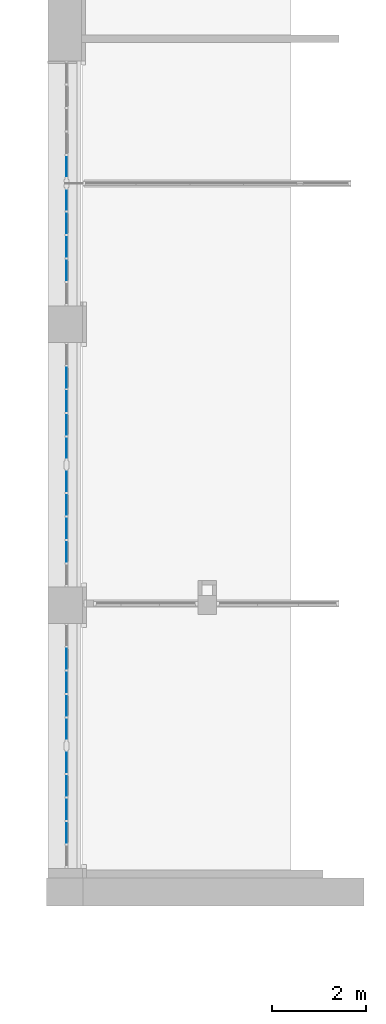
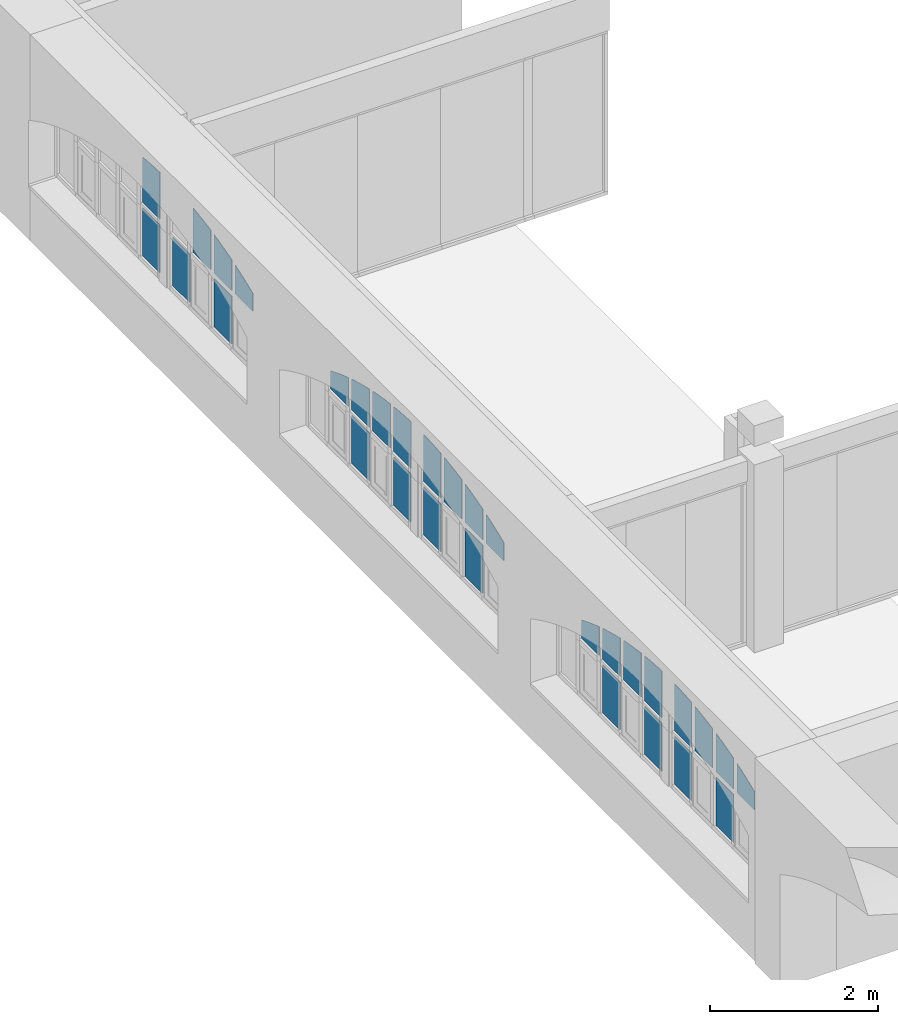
# One storey, part 25 of 32: 31 plates, 3 elements without a shape of their own.
"""IFC2X3 building model written with IfcOpenShell, lengths in millimetres."""

from ifc_helpers import new_model, entity, si_unit, converted_unit, derived_unit, direction, frame, frame_2d, origin, origin_2d_with_axis, place, context, subcontext, project, spatial, polyline, circle_curve, parameter, trimmed, segment, composite_curve, rectangle, outline, extrude, source, transform, mapped, material, type_object, type_shapes, element, aggregate, save


model = new_model("IFC2X3")

# Units and contexts
model_context = context("Model", 3, precision=0.01, world=origin(), true_north=direction((6.123031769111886e-17, 1.0)))
body_context = subcontext(model_context, "Body", "Model", "MODEL_VIEW")
ifc_project = project(units=[si_unit("LENGTHUNIT", "METRE", prefix="MILLI"), si_unit("AREAUNIT", "SQUARE_METRE"), si_unit("VOLUMEUNIT", "CUBIC_METRE"), converted_unit("PLANEANGLEUNIT", "DEGREE", entity("IfcPlaneAngleMeasure", 0.017453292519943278), si_unit("PLANEANGLEUNIT", "RADIAN"), dimensions=[0, 0, 0, 0, 0, 0, 0]), si_unit("MASSUNIT", "GRAM", prefix="KILO"), derived_unit("MASSDENSITYUNIT", [(si_unit("MASSUNIT", "GRAM", prefix="KILO"), 1), (si_unit("LENGTHUNIT", "METRE"), -3)]), derived_unit("IONCONCENTRATIONUNIT", [(si_unit("MASSUNIT", "GRAM", prefix="KILO"), 1), (si_unit("LENGTHUNIT", "METRE"), -3)]), derived_unit("MOMENTOFINERTIAUNIT", [(si_unit("LENGTHUNIT", "METRE"), 4)]), si_unit("TIMEUNIT", "SECOND"), si_unit("FREQUENCYUNIT", "HERTZ"), si_unit("THERMODYNAMICTEMPERATUREUNIT", "DEGREE_CELSIUS"), derived_unit("THERMALTRANSMITTANCEUNIT", [(si_unit("MASSUNIT", "GRAM", prefix="KILO"), 1), (si_unit("THERMODYNAMICTEMPERATUREUNIT", "KELVIN"), -1), (si_unit("TIMEUNIT", "SECOND"), -3)]), derived_unit("THERMALCONDUCTANCEUNIT", [(si_unit("MASSUNIT", "GRAM", prefix="KILO"), 1), (si_unit("THERMODYNAMICTEMPERATUREUNIT", "KELVIN"), -1), (si_unit("TIMEUNIT", "SECOND"), -3), (si_unit("LENGTHUNIT", "METRE"), 1)]), derived_unit("VOLUMETRICFLOWRATEUNIT", [(si_unit("LENGTHUNIT", "METRE", prefix="DECI"), 3), (si_unit("TIMEUNIT", "SECOND"), -1)]), derived_unit("MASSFLOWRATEUNIT", [(si_unit("MASSUNIT", "GRAM", prefix="KILO"), 1), (si_unit("TIMEUNIT", "SECOND"), -1)]), derived_unit("ROTATIONALFREQUENCYUNIT", [(si_unit("TIMEUNIT", "SECOND"), -1)]), si_unit("ELECTRICCURRENTUNIT", "AMPERE"), si_unit("ELECTRICVOLTAGEUNIT", "VOLT"), si_unit("POWERUNIT", "WATT"), si_unit("FORCEUNIT", "NEWTON", prefix="KILO"), si_unit("ILLUMINANCEUNIT", "LUX"), si_unit("LUMINOUSFLUXUNIT", "LUMEN"), si_unit("LUMINOUSINTENSITYUNIT", "CANDELA"), si_unit("ENERGYUNIT", "JOULE"), derived_unit("USERDEFINED", [(si_unit("MASSUNIT", "GRAM", prefix="KILO"), -1), (si_unit("LENGTHUNIT", "METRE"), -2), (si_unit("TIMEUNIT", "SECOND"), 3), (si_unit("LUMINOUSFLUXUNIT", "LUMEN"), 1)]), derived_unit("USERDEFINED", [(si_unit("MASSUNIT", "GRAM", prefix="KILO"), 1), (si_unit("TIMEUNIT", "SECOND"), -3), (si_unit("LENGTHUNIT", "METRE"), 3), (si_unit("ELECTRICCURRENTUNIT", "AMPERE"), -2)]), derived_unit("SOUNDPOWERUNIT", [(si_unit("MASSUNIT", "GRAM", prefix="KILO"), 1), (si_unit("TIMEUNIT", "SECOND"), -3), (si_unit("LENGTHUNIT", "METRE"), 2)]), derived_unit("SOUNDPRESSUREUNIT", [(si_unit("MASSUNIT", "GRAM", prefix="KILO"), 1), (si_unit("LENGTHUNIT", "METRE"), -1), (si_unit("TIMEUNIT", "SECOND"), -2)]), derived_unit("LINEARVELOCITYUNIT", [(si_unit("LENGTHUNIT", "METRE"), 1), (si_unit("TIMEUNIT", "SECOND"), -1)]), si_unit("PRESSUREUNIT", "PASCAL"), derived_unit("USERDEFINED", [(si_unit("MASSUNIT", "GRAM", prefix="KILO"), 1), (si_unit("LENGTHUNIT", "METRE"), -2), (si_unit("TIMEUNIT", "SECOND"), -2)]), derived_unit("LINEARFORCEUNIT", [(si_unit("MASSUNIT", "GRAM", prefix="KILO"), 1), (si_unit("TIMEUNIT", "SECOND"), -2)]), derived_unit("PLANARFORCEUNIT", [(si_unit("MASSUNIT", "GRAM", prefix="KILO"), 1), (si_unit("LENGTHUNIT", "METRE"), -1), (si_unit("TIMEUNIT", "SECOND"), -2)]), derived_unit("SPECIFICHEATCAPACITYUNIT", [(si_unit("THERMODYNAMICTEMPERATUREUNIT", "KELVIN"), -1), (si_unit("LENGTHUNIT", "METRE"), 2), (si_unit("TIMEUNIT", "SECOND"), -2)]), derived_unit("HEATFLUXDENSITYUNIT", [(si_unit("MASSUNIT", "GRAM", prefix="KILO"), 1), (si_unit("TIMEUNIT", "SECOND"), -3)]), derived_unit("HEATINGVALUEUNIT", [(si_unit("LENGTHUNIT", "METRE"), 2), (si_unit("TIMEUNIT", "SECOND"), -2)]), derived_unit("VAPORPERMEABILITYUNIT", [(si_unit("LENGTHUNIT", "METRE"), -1), (si_unit("TIMEUNIT", "SECOND"), 1)]), derived_unit("DYNAMICVISCOSITYUNIT", [(si_unit("MASSUNIT", "GRAM", prefix="KILO"), 1), (si_unit("TIMEUNIT", "SECOND"), -1), (si_unit("LENGTHUNIT", "METRE"), -1)]), derived_unit("THERMALEXPANSIONCOEFFICIENTUNIT", [(si_unit("THERMODYNAMICTEMPERATUREUNIT", "KELVIN"), -1)]), derived_unit("MODULUSOFELASTICITYUNIT", [(si_unit("MASSUNIT", "GRAM", prefix="KILO"), 1), (si_unit("LENGTHUNIT", "METRE"), -1), (si_unit("TIMEUNIT", "SECOND"), -2)]), derived_unit("ISOTHERMALMOISTURECAPACITYUNIT", [(si_unit("MASSUNIT", "GRAM", prefix="KILO"), -1), (si_unit("LENGTHUNIT", "METRE"), 3)]), derived_unit("MOISTUREDIFFUSIVITYUNIT", [(si_unit("TIMEUNIT", "SECOND"), -1), (si_unit("LENGTHUNIT", "METRE"), 2)]), derived_unit("MASSPERLENGTHUNIT", [(si_unit("MASSUNIT", "GRAM", prefix="KILO"), 1), (si_unit("LENGTHUNIT", "METRE"), -1)]), derived_unit("THERMALRESISTANCEUNIT", [(si_unit("MASSUNIT", "GRAM", prefix="KILO"), -1), (si_unit("TIMEUNIT", "SECOND"), 3), (si_unit("THERMODYNAMICTEMPERATUREUNIT", "KELVIN"), 1)]), derived_unit("ACCELERATIONUNIT", [(si_unit("LENGTHUNIT", "METRE"), 1), (si_unit("TIMEUNIT", "SECOND"), -2)]), derived_unit("ANGULARVELOCITYUNIT", [(si_unit("TIMEUNIT", "SECOND"), -1), (si_unit("PLANEANGLEUNIT", "RADIAN"), 1)]), derived_unit("LINEARSTIFFNESSUNIT", [(si_unit("MASSUNIT", "GRAM", prefix="KILO"), 1), (si_unit("TIMEUNIT", "SECOND"), -2)]), derived_unit("WARPINGCONSTANTUNIT", [(si_unit("LENGTHUNIT", "METRE"), 6)]), derived_unit("LINEARMOMENTUNIT", [(si_unit("MASSUNIT", "GRAM", prefix="KILO"), 1), (si_unit("LENGTHUNIT", "METRE"), 1), (si_unit("TIMEUNIT", "SECOND"), -2)]), derived_unit("TORQUEUNIT", [(si_unit("MASSUNIT", "GRAM", prefix="KILO"), 1), (si_unit("LENGTHUNIT", "METRE"), 2), (si_unit("TIMEUNIT", "SECOND"), -2)])], contexts=[model_context])

# Site, building, storey
site_placement = place(None, origin())
site = spatial("IfcSite", under=ifc_project, at=site_placement, Name="Default", CompositionType="ELEMENT")
building_placement = place(site_placement, origin())
building = spatial("IfcBuilding", under=site, at=building_placement, Name="Eesti Rahvusraamatukogu hoone renoveerimise projekteerimistööd", CompositionType="ELEMENT")
storey_placement = place(building_placement, frame((0.0, 0.0, 4950.000000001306)))
storey = spatial("IfcBuildingStorey", under=building, at=storey_placement, Name="2. korrus", CompositionType="ELEMENT", Elevation=4950.000000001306)

# Curtain wall, plate
curtain_wall_type = type_object("IfcCurtainWallType", Name="Curtain Wall:Ak-04", PredefinedType="NOTDEFINED")
curtain_wall_1_placement = place(storey_placement, frame((0.0, 0.0, -4950.000000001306)))
curtain_wall_1 = element("IfcCurtainWall", 1, at=curtain_wall_1_placement, inside=storey, type_object=curtain_wall_type, Name="Curtain Wall:Ak-04", ObjectType="Curtain Wall:Ak-04")
ifc_material = material(Name="EST. Klaas. 3x. Default")
plate_type_1 = type_object("IfcPlateType", Name="System Panel:Peegelaknad 6-16-4-16-4, paneel", PredefinedType="CURTAIN_PANEL", material=ifc_material)
shared_shape_1 = source(origin(), body_context, "Body", "SweptSolid", [
    extrude(rectangle(XDim=10.0, YDim=419.99999999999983, at=origin_2d_with_axis()), frame((0.0, 0.0, 0.0), z_axis=(0.0, 0.0, 1.0), x_axis=(0.0, 1.0, 0.0)), (0.0, 0.0, 1.0), 700.0),
])
type_shapes(plate_type_1, [shared_shape_1])
plate_1_placement = place(curtain_wall_1_placement, frame((-36383.9999999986, 19998.695591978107, 5810.000000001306), z_axis=(0.0, 0.0, 1.0), x_axis=(0.0, -1.0, 0.0)))
plate_1 = element("IfcPlate", 2, at=plate_1_placement, type_object=plate_type_1, material=ifc_material, Name="System Panel:Peegelaknad 6-16-4-16-4, paneel", ObjectType="System Panel:Peegelaknad 6-16-4-16-4, paneel", context=body_context, shape_type="MappedRepresentation", body=[
    mapped(shared_shape_1, transform((0.0, 0.0, 0.0), scale=1.0)),
])

# Curtain wall, plates
curtain_wall_2_placement = place(storey_placement, frame((0.0, 0.0, -4950.000000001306)))
curtain_wall_2 = element("IfcCurtainWall", 3, at=curtain_wall_2_placement, inside=storey, type_object=curtain_wall_type, Name="Curtain Wall:Ak-04", ObjectType="Curtain Wall:Ak-04")
plate_2_placement = place(curtain_wall_2_placement, frame((-36383.999999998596, 16718.695591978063, 5810.000000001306), z_axis=(0.0, 0.0, 1.0), x_axis=(0.0, -1.0, 0.0)))
plate_2 = element("IfcPlate", 4, at=plate_2_placement, type_object=plate_type_1, material=ifc_material, Name="System Panel:Peegelaknad 6-16-4-16-4, paneel", ObjectType="System Panel:Peegelaknad 6-16-4-16-4, paneel", context=body_context, shape_type="MappedRepresentation", body=[
    mapped(shared_shape_1, transform((0.0, 0.0, 0.0), scale=1.0)),
])
plate_3_placement = place(curtain_wall_2_placement, frame((-36383.9999999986, 14018.695591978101, 5810.000000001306), z_axis=(0.0, 0.0, 1.0), x_axis=(0.0, -1.0, 0.0)))
plate_3 = element("IfcPlate", 5, at=plate_3_placement, type_object=plate_type_1, material=ifc_material, Name="System Panel:Peegelaknad 6-16-4-16-4, paneel", ObjectType="System Panel:Peegelaknad 6-16-4-16-4, paneel", context=body_context, shape_type="MappedRepresentation", body=[
    mapped(shared_shape_1, transform((0.0, 0.0, 0.0), scale=1.0)),
])

curtain_wall_3_placement = place(storey_placement, frame((0.0, 0.0, -4950.000000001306)))
curtain_wall_3 = element("IfcCurtainWall", 6, at=curtain_wall_3_placement, inside=storey, type_object=curtain_wall_type, Name="Curtain Wall:Ak-04", ObjectType="Curtain Wall:Ak-04")
plate_4_placement = place(curtain_wall_3_placement, frame((-36383.999999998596, 10746.59999999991, 5810.000000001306), z_axis=(0.0, 0.0, 1.0), x_axis=(0.0, -1.0, 0.0)))
plate_4 = element("IfcPlate", 7, at=plate_4_placement, type_object=plate_type_1, material=ifc_material, Name="System Panel:Peegelaknad 6-16-4-16-4, paneel", ObjectType="System Panel:Peegelaknad 6-16-4-16-4, paneel", context=body_context, shape_type="MappedRepresentation", body=[
    mapped(shared_shape_1, transform((0.0, 0.0, 0.0), scale=1.0)),
])
plate_5_placement = place(curtain_wall_3_placement, frame((-36383.9999999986, 8046.599999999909, 5810.000000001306), z_axis=(0.0, 0.0, 1.0), x_axis=(0.0, -1.0, 0.0)))
plate_5 = element("IfcPlate", 8, at=plate_5_placement, type_object=plate_type_1, material=ifc_material, Name="System Panel:Peegelaknad 6-16-4-16-4, paneel", ObjectType="System Panel:Peegelaknad 6-16-4-16-4, paneel", context=body_context, shape_type="MappedRepresentation", body=[
    mapped(shared_shape_1, transform((0.0, 0.0, 0.0), scale=1.0)),
])

# Plate
plate_type_2 = type_object("IfcPlateType", Name="System Panel:Peegelaknad 6-16-4-16-4, paneel", PredefinedType="CURTAIN_PANEL", material=ifc_material)
shared_shape_2 = source(origin(), body_context, "Body", "SweptSolid", [
    extrude(rectangle(XDim=10.0, YDim=410.0000000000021, at=origin_2d_with_axis()), frame((0.0, 0.0, 0.0), z_axis=(0.0, 0.0, 1.0), x_axis=(0.0, 1.0, 0.0)), (0.0, 0.0, 1.0), 700.0),
])
type_shapes(plate_type_2, [shared_shape_2])
plate_6_placement = place(curtain_wall_1_placement, frame((-36383.999999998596, 21703.695591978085, 5810.000000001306), z_axis=(0.0, 0.0, 1.0), x_axis=(0.0, -1.0, 0.0)))
plate_6 = element("IfcPlate", 9, at=plate_6_placement, type_object=plate_type_2, material=ifc_material, Name="System Panel:Peegelaknad 6-16-4-16-4, paneel", ObjectType="System Panel:Peegelaknad 6-16-4-16-4, paneel", context=body_context, shape_type="MappedRepresentation", body=[
    mapped(shared_shape_2, transform((0.0, 0.0, 0.0), scale=1.0)),
])

plate_7_placement = place(curtain_wall_1_placement, frame((-36383.999999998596, 20993.695591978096, 5810.000000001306), z_axis=(0.0, 0.0, 1.0), x_axis=(0.0, -1.0, 0.0)))
plate_7 = element("IfcPlate", 10, at=plate_7_placement, type_object=plate_type_2, material=ifc_material, Name="System Panel:Peegelaknad 6-16-4-16-4, paneel", ObjectType="System Panel:Peegelaknad 6-16-4-16-4, paneel", context=body_context, shape_type="MappedRepresentation", body=[
    mapped(shared_shape_2, transform((0.0, 0.0, 0.0), scale=1.0)),
])

plate_8_placement = place(curtain_wall_2_placement, frame((-36383.999999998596, 15723.695591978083, 5810.000000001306), z_axis=(0.0, 0.0, 1.0), x_axis=(0.0, -1.0, 0.0)))
plate_8 = element("IfcPlate", 11, at=plate_8_placement, type_object=plate_type_2, material=ifc_material, Name="System Panel:Peegelaknad 6-16-4-16-4, paneel", ObjectType="System Panel:Peegelaknad 6-16-4-16-4, paneel", context=body_context, shape_type="MappedRepresentation", body=[
    mapped(shared_shape_2, transform((0.0, 0.0, 0.0), scale=1.0)),
])

plate_9_placement = place(curtain_wall_2_placement, frame((-36383.999999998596, 15013.6955919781, 5810.000000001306), z_axis=(0.0, 0.0, 1.0), x_axis=(0.0, -1.0, 0.0)))
plate_9 = element("IfcPlate", 12, at=plate_9_placement, type_object=plate_type_2, material=ifc_material, Name="System Panel:Peegelaknad 6-16-4-16-4, paneel", ObjectType="System Panel:Peegelaknad 6-16-4-16-4, paneel", context=body_context, shape_type="MappedRepresentation", body=[
    mapped(shared_shape_2, transform((0.0, 0.0, 0.0), scale=1.0)),
])

plate_10_placement = place(curtain_wall_3_placement, frame((-36383.999999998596, 9751.59999999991, 5810.000000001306), z_axis=(0.0, 0.0, 1.0), x_axis=(0.0, -1.0, 0.0)))
plate_10 = element("IfcPlate", 13, at=plate_10_placement, type_object=plate_type_2, material=ifc_material, Name="System Panel:Peegelaknad 6-16-4-16-4, paneel", ObjectType="System Panel:Peegelaknad 6-16-4-16-4, paneel", context=body_context, shape_type="MappedRepresentation", body=[
    mapped(shared_shape_2, transform((0.0, 0.0, 0.0), scale=1.0)),
])

plate_11_placement = place(curtain_wall_3_placement, frame((-36383.999999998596, 9041.59999999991, 5810.000000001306), z_axis=(0.0, 0.0, 1.0), x_axis=(0.0, -1.0, 0.0)))
plate_11 = element("IfcPlate", 14, at=plate_11_placement, type_object=plate_type_2, material=ifc_material, Name="System Panel:Peegelaknad 6-16-4-16-4, paneel", ObjectType="System Panel:Peegelaknad 6-16-4-16-4, paneel", context=body_context, shape_type="MappedRepresentation", body=[
    mapped(shared_shape_2, transform((0.0, 0.0, 0.0), scale=1.0)),
])

plate_type_3 = type_object("IfcPlateType", Name="System Panel:Peegelaknad 6-16-4-16-4, paneel", PredefinedType="CURTAIN_PANEL", material=ifc_material)
shared_shape_3 = source(origin(), body_context, "Body", "SweptSolid", [
    extrude(outline(composite_curve([segment(polyline([(-170.7819693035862, -210.0), (92.47651241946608, -210.0)]), True, "CONTINUOUS"), segment(trimmed(circle_curve(frame_2d((-4790.558088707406, 1850.0), x_axis=(0.9547498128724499, -0.29741014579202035)), 5299.776119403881), [parameter(354.42875253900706)], [parameter(359.27620733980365)], True, "PARAMETER"), True, "CONTINUOUS"), segment(polyline([(249.0874261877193, 210.0), (-170.7819693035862, 210.0)]), True, "CONTINUOUS"), segment(polyline([(-170.7819693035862, 210.0), (-170.7819693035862, -210.0)]), True, "CONTINUOUS")], self_intersect=False)), frame((0.0, -5.0, 170.7819693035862), z_axis=(0.0, 1.0, 0.0), x_axis=(0.0, 0.0, 1.0)), (0.0, 0.0, 1.0), 10.0),
])
type_shapes(plate_type_3, [shared_shape_3])
plate_12_placement = place(curtain_wall_2_placement, frame((-36383.999999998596, 17218.695591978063, 6590.000000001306), z_axis=(0.0, 0.0, 1.0), x_axis=(0.0, -1.0, 0.0)))
plate_12 = element("IfcPlate", 15, at=plate_12_placement, type_object=plate_type_3, material=ifc_material, Name="System Panel:Peegelaknad 6-16-4-16-4, paneel", ObjectType="System Panel:Peegelaknad 6-16-4-16-4, paneel", context=body_context, shape_type="MappedRepresentation", body=[
    mapped(shared_shape_3, transform((0.0, 0.0, 0.0), scale=1.0)),
])

plate_13_placement = place(curtain_wall_3_placement, frame((-36383.999999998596, 11246.599999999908, 6590.000000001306), z_axis=(0.0, 0.0, 1.0), x_axis=(0.0, -1.0, 0.0)))
plate_13 = element("IfcPlate", 16, at=plate_13_placement, type_object=plate_type_3, material=ifc_material, Name="System Panel:Peegelaknad 6-16-4-16-4, paneel", ObjectType="System Panel:Peegelaknad 6-16-4-16-4, paneel", context=body_context, shape_type="MappedRepresentation", body=[
    mapped(shared_shape_3, transform((0.0, 0.0, 0.0), scale=1.0)),
])

plate_type_4 = type_object("IfcPlateType", Name="System Panel:Peegelaknad 6-16-4-16-4, paneel", PredefinedType="CURTAIN_PANEL", material=ifc_material)
shared_shape_4 = source(origin(), body_context, "Body", "SweptSolid", [
    extrude(outline(composite_curve([segment(polyline([(-250.28582961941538, -210.0), (194.91849672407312, -210.0)]), True, "CONTINUOUS"), segment(trimmed(circle_curve(frame_2d((-4870.061949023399, 1350.0), x_axis=(0.9788729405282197, -0.20446947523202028)), 5299.776119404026), [parameter(354.6797564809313)], [parameter(359.3768492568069)], True, "PARAMETER"), True, "CONTINUOUS"), segment(polyline([(305.65316251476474, 210.0), (-250.28582961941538, 210.0)]), True, "CONTINUOUS"), segment(polyline([(-250.28582961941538, 210.0), (-250.28582961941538, -210.0)]), True, "CONTINUOUS")], self_intersect=False)), frame((0.0, -5.0, 250.28582961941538), z_axis=(0.0, 1.0, 0.0), x_axis=(0.0, 0.0, 1.0)), (0.0, 0.0, 1.0), 10.0),
])
type_shapes(plate_type_4, [shared_shape_4])
plate_14_placement = place(curtain_wall_2_placement, frame((-36383.999999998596, 16718.695591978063, 6590.000000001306), z_axis=(0.0, 0.0, 1.0), x_axis=(0.0, -1.0, 0.0)))
plate_14 = element("IfcPlate", 17, at=plate_14_placement, type_object=plate_type_4, material=ifc_material, Name="System Panel:Peegelaknad 6-16-4-16-4, paneel", ObjectType="System Panel:Peegelaknad 6-16-4-16-4, paneel", context=body_context, shape_type="MappedRepresentation", body=[
    mapped(shared_shape_4, transform((0.0, 0.0, 0.0), scale=1.0)),
])

plate_15_placement = place(curtain_wall_3_placement, frame((-36383.999999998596, 10746.59999999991, 6590.000000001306), z_axis=(0.0, 0.0, 1.0), x_axis=(0.0, -1.0, 0.0)))
plate_15 = element("IfcPlate", 18, at=plate_15_placement, type_object=plate_type_4, material=ifc_material, Name="System Panel:Peegelaknad 6-16-4-16-4, paneel", ObjectType="System Panel:Peegelaknad 6-16-4-16-4, paneel", context=body_context, shape_type="MappedRepresentation", body=[
    mapped(shared_shape_4, transform((0.0, 0.0, 0.0), scale=1.0)),
])

plate_type_5 = type_object("IfcPlateType", Name="System Panel:Peegelaknad 6-16-4-16-4, paneel", PredefinedType="CURTAIN_PANEL", material=ifc_material)
shared_shape_5 = source(origin(), body_context, "Body", "SweptSolid", [
    extrude(outline(composite_curve([segment(polyline([(-303.532144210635, -210.0), (269.381493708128, -210.0)]), True, "CONTINUOUS"), segment(trimmed(circle_curve(frame_2d((-4923.308263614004, 850.0), x_axis=(0.9937612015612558, -0.11152880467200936)), 5299.776119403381), [parameter(354.8659988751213)], [parameter(359.46749610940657)], True, "PARAMETER"), True, "CONTINUOUS"), segment(polyline([(337.6827947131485, 210.0), (-303.532144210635, 210.0)]), True, "CONTINUOUS"), segment(polyline([(-303.532144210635, 210.0), (-303.532144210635, -210.0)]), True, "CONTINUOUS")], self_intersect=False)), frame((0.0, -5.0, 303.532144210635), z_axis=(0.0, 1.0, 0.0), x_axis=(0.0, 0.0, 1.0)), (0.0, 0.0, 1.0), 10.0),
])
type_shapes(plate_type_5, [shared_shape_5])
plate_16_placement = place(curtain_wall_2_placement, frame((-36383.999999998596, 16218.695591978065, 6590.000000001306), z_axis=(0.0, 0.0, 1.0), x_axis=(0.0, -1.0, 0.0)))
plate_16 = element("IfcPlate", 19, at=plate_16_placement, type_object=plate_type_5, material=ifc_material, Name="System Panel:Peegelaknad 6-16-4-16-4, paneel", ObjectType="System Panel:Peegelaknad 6-16-4-16-4, paneel", context=body_context, shape_type="MappedRepresentation", body=[
    mapped(shared_shape_5, transform((0.0, 0.0, 0.0), scale=1.0)),
])

plate_17_placement = place(curtain_wall_3_placement, frame((-36383.999999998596, 10246.59999999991, 6590.000000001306), z_axis=(0.0, 0.0, 1.0), x_axis=(0.0, -1.0, 0.0)))
plate_17 = element("IfcPlate", 20, at=plate_17_placement, type_object=plate_type_5, material=ifc_material, Name="System Panel:Peegelaknad 6-16-4-16-4, paneel", ObjectType="System Panel:Peegelaknad 6-16-4-16-4, paneel", context=body_context, shape_type="MappedRepresentation", body=[
    mapped(shared_shape_5, transform((0.0, 0.0, 0.0), scale=1.0)),
])

plate_type_6 = type_object("IfcPlateType", Name="System Panel:Peegelaknad 6-16-4-16-4, paneel", PredefinedType="CURTAIN_PANEL", material=ifc_material)
shared_shape_6 = source(origin(), body_context, "Body", "SweptSolid", [
    extrude(outline(composite_curve([segment(polyline([(-332.05191026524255, -205.0), (318.27888725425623, -205.0)]), True, "CONTINUOUS"), segment(trimmed(circle_curve(frame_2d((-4951.82802966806, 355.0), x_axis=(1.0, 0.0)), 5299.776119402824), [parameter(353.9345277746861)], [parameter(358.3781362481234)], True, "PARAMETER"), True, "CONTINUOUS"), segment(polyline([(345.8249332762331, 205.0), (-332.05191026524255, 205.0)]), True, "CONTINUOUS"), segment(polyline([(-332.05191026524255, 205.0), (-332.05191026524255, -205.0)]), True, "CONTINUOUS")], self_intersect=False)), frame((0.0, -5.0, 332.05191026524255), z_axis=(0.0, 1.0, 0.0), x_axis=(0.0, 0.0, 1.0)), (0.0, 0.0, 1.0), 10.0),
])
type_shapes(plate_type_6, [shared_shape_6])
plate_18_placement = place(curtain_wall_1_placement, frame((-36383.999999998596, 21703.695591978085, 6590.000000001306), z_axis=(0.0, 0.0, 1.0), x_axis=(0.0, -1.0, 0.0)))
plate_18 = element("IfcPlate", 21, at=plate_18_placement, type_object=plate_type_6, material=ifc_material, Name="System Panel:Peegelaknad 6-16-4-16-4, paneel", ObjectType="System Panel:Peegelaknad 6-16-4-16-4, paneel", context=body_context, shape_type="MappedRepresentation", body=[
    mapped(shared_shape_6, transform((0.0, 0.0, 0.0), scale=1.0)),
])

plate_19_placement = place(curtain_wall_2_placement, frame((-36383.999999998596, 15723.695591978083, 6590.000000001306), z_axis=(0.0, 0.0, 1.0), x_axis=(0.0, -1.0, 0.0)))
plate_19 = element("IfcPlate", 22, at=plate_19_placement, type_object=plate_type_6, material=ifc_material, Name="System Panel:Peegelaknad 6-16-4-16-4, paneel", ObjectType="System Panel:Peegelaknad 6-16-4-16-4, paneel", context=body_context, shape_type="MappedRepresentation", body=[
    mapped(shared_shape_6, transform((0.0, 0.0, 0.0), scale=1.0)),
])

plate_20_placement = place(curtain_wall_3_placement, frame((-36383.999999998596, 9751.59999999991, 6590.000000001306), z_axis=(0.0, 0.0, 1.0), x_axis=(0.0, -1.0, 0.0)))
plate_20 = element("IfcPlate", 23, at=plate_20_placement, type_object=plate_type_6, material=ifc_material, Name="System Panel:Peegelaknad 6-16-4-16-4, paneel", ObjectType="System Panel:Peegelaknad 6-16-4-16-4, paneel", context=body_context, shape_type="MappedRepresentation", body=[
    mapped(shared_shape_6, transform((0.0, 0.0, 0.0), scale=1.0)),
])

plate_type_7 = type_object("IfcPlateType", Name="System Panel:Peegelaknad 6-16-4-16-4, paneel", PredefinedType="CURTAIN_PANEL", material=ifc_material)
shared_shape_7 = source(origin(), body_context, "Body", "SweptSolid", [
    extrude(outline(composite_curve([segment(polyline([(-332.0519102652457, 205.0), (-332.0519102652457, -205.0)]), True, "CONTINUOUS"), segment(polyline([(-332.0519102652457, -205.0), (318.2788872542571, -205.0)]), True, "CONTINUOUS"), segment(trimmed(circle_curve(frame_2d((-4951.828029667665, 355.0), x_axis=(0.9937612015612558, -0.1115288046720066)), 5299.776119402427), [parameter(0.3379797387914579)], [parameter(4.7815882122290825)], True, "PARAMETER"), True, "CONTINUOUS"), segment(polyline([(345.8249332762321, 205.0), (-332.0519102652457, 205.0)]), True, "CONTINUOUS")], self_intersect=False)), frame((0.0, -5.0, 332.0519102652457), z_axis=(0.0, -1.0, 0.0), x_axis=(0.0, 0.0, 1.0)), (0.0, 0.0, -1.0), 10.0),
])
type_shapes(plate_type_7, [shared_shape_7])
plate_21_placement = place(curtain_wall_2_placement, frame((-36383.999999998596, 15013.6955919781, 6590.000000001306), z_axis=(0.0, 0.0, 1.0), x_axis=(0.0, -1.0, 0.0)))
plate_21 = element("IfcPlate", 24, at=plate_21_placement, type_object=plate_type_7, material=ifc_material, Name="System Panel:Peegelaknad 6-16-4-16-4, paneel", ObjectType="System Panel:Peegelaknad 6-16-4-16-4, paneel", context=body_context, shape_type="MappedRepresentation", body=[
    mapped(shared_shape_7, transform((0.0, 0.0, 0.0), scale=1.0)),
])

plate_22_placement = place(curtain_wall_3_placement, frame((-36383.999999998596, 9041.59999999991, 6590.000000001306), z_axis=(0.0, 0.0, 1.0), x_axis=(0.0, -1.0, 0.0)))
plate_22 = element("IfcPlate", 25, at=plate_22_placement, type_object=plate_type_7, material=ifc_material, Name="System Panel:Peegelaknad 6-16-4-16-4, paneel", ObjectType="System Panel:Peegelaknad 6-16-4-16-4, paneel", context=body_context, shape_type="MappedRepresentation", body=[
    mapped(shared_shape_7, transform((0.0, 0.0, 0.0), scale=1.0)),
])

plate_type_8 = type_object("IfcPlateType", Name="System Panel:Peegelaknad 6-16-4-16-4, paneel", PredefinedType="CURTAIN_PANEL", material=ifc_material)
shared_shape_8 = source(origin(), body_context, "Body", "SweptSolid", [
    extrude(outline(composite_curve([segment(polyline([(-303.53214421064, 210.0), (-303.53214421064, -210.0)]), True, "CONTINUOUS"), segment(polyline([(-303.53214421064, -210.0), (269.3814937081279, -210.0)]), True, "CONTINUOUS"), segment(trimmed(circle_curve(frame_2d((-4923.3082636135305, 850.0), x_axis=(0.9788729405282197, -0.2044694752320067)), 5299.7761194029), [parameter(0.2609913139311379)], [parameter(4.862488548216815)], True, "PARAMETER"), True, "CONTINUOUS"), segment(polyline([(337.6827947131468, 210.0), (-303.53214421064, 210.0)]), True, "CONTINUOUS")], self_intersect=False)), frame((0.0, -5.0, 303.53214421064), z_axis=(0.0, -1.0, 0.0), x_axis=(0.0, 0.0, 1.0)), (0.0, 0.0, -1.0), 10.0),
])
type_shapes(plate_type_8, [shared_shape_8])
plate_23_placement = place(curtain_wall_1_placement, frame((-36383.999999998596, 20498.695591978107, 6590.000000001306), z_axis=(0.0, 0.0, 1.0), x_axis=(0.0, -1.0, 0.0)))
plate_23 = element("IfcPlate", 26, at=plate_23_placement, type_object=plate_type_8, material=ifc_material, Name="System Panel:Peegelaknad 6-16-4-16-4, paneel", ObjectType="System Panel:Peegelaknad 6-16-4-16-4, paneel", context=body_context, shape_type="MappedRepresentation", body=[
    mapped(shared_shape_8, transform((0.0, 0.0, 0.0), scale=1.0)),
])

plate_24_placement = place(curtain_wall_2_placement, frame((-36383.999999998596, 14518.6955919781, 6590.000000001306), z_axis=(0.0, 0.0, 1.0), x_axis=(0.0, -1.0, 0.0)))
plate_24 = element("IfcPlate", 27, at=plate_24_placement, type_object=plate_type_8, material=ifc_material, Name="System Panel:Peegelaknad 6-16-4-16-4, paneel", ObjectType="System Panel:Peegelaknad 6-16-4-16-4, paneel", context=body_context, shape_type="MappedRepresentation", body=[
    mapped(shared_shape_8, transform((0.0, 0.0, 0.0), scale=1.0)),
])

plate_25_placement = place(curtain_wall_3_placement, frame((-36383.999999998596, 8546.59999999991, 6590.000000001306), z_axis=(0.0, 0.0, 1.0), x_axis=(0.0, -1.0, 0.0)))
plate_25 = element("IfcPlate", 28, at=plate_25_placement, type_object=plate_type_8, material=ifc_material, Name="System Panel:Peegelaknad 6-16-4-16-4, paneel", ObjectType="System Panel:Peegelaknad 6-16-4-16-4, paneel", context=body_context, shape_type="MappedRepresentation", body=[
    mapped(shared_shape_8, transform((0.0, 0.0, 0.0), scale=1.0)),
])

plate_type_9 = type_object("IfcPlateType", Name="System Panel:Peegelaknad 6-16-4-16-4, paneel", PredefinedType="CURTAIN_PANEL", material=ifc_material)
shared_shape_9 = source(origin(), body_context, "Body", "SweptSolid", [
    extrude(outline(composite_curve([segment(polyline([(-250.28582961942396, 210.0), (-250.28582961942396, -210.0)]), True, "CONTINUOUS"), segment(polyline([(-250.28582961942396, -210.0), (194.9184967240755, -210.0)]), True, "CONTINUOUS"), segment(trimmed(circle_curve(frame_2d((-4870.061949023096, 1350.0), x_axis=(0.9547498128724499, -0.2974101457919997)), 5299.776119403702), [parameter(0.18342876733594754)], [parameter(4.880521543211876)], True, "PARAMETER"), True, "CONTINUOUS"), segment(polyline([(305.6531625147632, 210.0), (-250.28582961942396, 210.0)]), True, "CONTINUOUS")], self_intersect=False)), frame((0.0, -5.0, 250.28582961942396), z_axis=(0.0, -1.0, 0.0), x_axis=(0.0, 0.0, 1.0)), (0.0, 0.0, -1.0), 10.0),
])
type_shapes(plate_type_9, [shared_shape_9])
plate_26_placement = place(curtain_wall_1_placement, frame((-36383.9999999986, 19998.695591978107, 6590.000000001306), z_axis=(0.0, 0.0, 1.0), x_axis=(0.0, -1.0, 0.0)))
plate_26 = element("IfcPlate", 29, at=plate_26_placement, type_object=plate_type_9, material=ifc_material, Name="System Panel:Peegelaknad 6-16-4-16-4, paneel", ObjectType="System Panel:Peegelaknad 6-16-4-16-4, paneel", context=body_context, shape_type="MappedRepresentation", body=[
    mapped(shared_shape_9, transform((0.0, 0.0, 0.0), scale=1.0)),
])

plate_27_placement = place(curtain_wall_2_placement, frame((-36383.9999999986, 14018.695591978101, 6590.000000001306), z_axis=(0.0, 0.0, 1.0), x_axis=(0.0, -1.0, 0.0)))
plate_27 = element("IfcPlate", 30, at=plate_27_placement, type_object=plate_type_9, material=ifc_material, Name="System Panel:Peegelaknad 6-16-4-16-4, paneel", ObjectType="System Panel:Peegelaknad 6-16-4-16-4, paneel", context=body_context, shape_type="MappedRepresentation", body=[
    mapped(shared_shape_9, transform((0.0, 0.0, 0.0), scale=1.0)),
])

plate_28_placement = place(curtain_wall_3_placement, frame((-36383.9999999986, 8046.599999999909, 6590.000000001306), z_axis=(0.0, 0.0, 1.0), x_axis=(0.0, -1.0, 0.0)))
plate_28 = element("IfcPlate", 31, at=plate_28_placement, type_object=plate_type_9, material=ifc_material, Name="System Panel:Peegelaknad 6-16-4-16-4, paneel", ObjectType="System Panel:Peegelaknad 6-16-4-16-4, paneel", context=body_context, shape_type="MappedRepresentation", body=[
    mapped(shared_shape_9, transform((0.0, 0.0, 0.0), scale=1.0)),
])

plate_type_10 = type_object("IfcPlateType", Name="System Panel:Peegelaknad 6-16-4-16-4, paneel", PredefinedType="CURTAIN_PANEL", material=ifc_material)
shared_shape_10 = source(origin(), body_context, "Body", "SweptSolid", [
    extrude(outline(composite_curve([segment(polyline([(-170.78196930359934, 210.0), (-170.78196930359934, -210.0)]), True, "CONTINUOUS"), segment(polyline([(-170.78196930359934, -210.0), (92.47651241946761, -210.0)]), True, "CONTINUOUS"), segment(trimmed(circle_curve(frame_2d((-4790.558088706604, 1850.0), x_axis=(0.9206661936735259, -0.39035081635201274)), 5299.776119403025), [parameter(0.10296582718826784)], [parameter(4.950420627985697)], True, "PARAMETER"), True, "CONTINUOUS"), segment(polyline([(249.0874261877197, 210.0), (-170.78196930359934, 210.0)]), True, "CONTINUOUS")], self_intersect=False)), frame((0.0, -5.0, 170.78196930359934), z_axis=(0.0, -1.0, 0.0), x_axis=(0.0, 0.0, 1.0)), (0.0, 0.0, -1.0), 10.0),
])
type_shapes(plate_type_10, [shared_shape_10])
plate_29_placement = place(curtain_wall_1_placement, frame((-36383.9999999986, 19498.695591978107, 6590.000000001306), z_axis=(0.0, 0.0, 1.0), x_axis=(0.0, -1.0, 0.0)))
plate_29 = element("IfcPlate", 32, at=plate_29_placement, type_object=plate_type_10, material=ifc_material, Name="System Panel:Peegelaknad 6-16-4-16-4, paneel", ObjectType="System Panel:Peegelaknad 6-16-4-16-4, paneel", context=body_context, shape_type="MappedRepresentation", body=[
    mapped(shared_shape_10, transform((0.0, 0.0, 0.0), scale=1.0)),
])

aggregate(curtain_wall_1, [plate_6, plate_7, plate_1, plate_18, plate_23, plate_26, plate_29])

plate_30_placement = place(curtain_wall_2_placement, frame((-36383.9999999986, 13518.695591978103, 6590.000000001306), z_axis=(0.0, 0.0, 1.0), x_axis=(0.0, -1.0, 0.0)))
plate_30 = element("IfcPlate", 33, at=plate_30_placement, type_object=plate_type_10, material=ifc_material, Name="System Panel:Peegelaknad 6-16-4-16-4, paneel", ObjectType="System Panel:Peegelaknad 6-16-4-16-4, paneel", context=body_context, shape_type="MappedRepresentation", body=[
    mapped(shared_shape_10, transform((0.0, 0.0, 0.0), scale=1.0)),
])

aggregate(curtain_wall_2, [plate_2, plate_8, plate_9, plate_3, plate_12, plate_14, plate_16, plate_19, plate_21, plate_24, plate_27, plate_30])

plate_31_placement = place(curtain_wall_3_placement, frame((-36383.9999999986, 7546.599999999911, 6590.000000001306), z_axis=(0.0, 0.0, 1.0), x_axis=(0.0, -1.0, 0.0)))
plate_31 = element("IfcPlate", 34, at=plate_31_placement, type_object=plate_type_10, material=ifc_material, Name="System Panel:Peegelaknad 6-16-4-16-4, paneel", ObjectType="System Panel:Peegelaknad 6-16-4-16-4, paneel", context=body_context, shape_type="MappedRepresentation", body=[
    mapped(shared_shape_10, transform((0.0, 0.0, 0.0), scale=1.0)),
])

aggregate(curtain_wall_3, [plate_4, plate_10, plate_11, plate_5, plate_13, plate_15, plate_17, plate_20, plate_22, plate_25, plate_28, plate_31])

save(model, "model.ifc")
